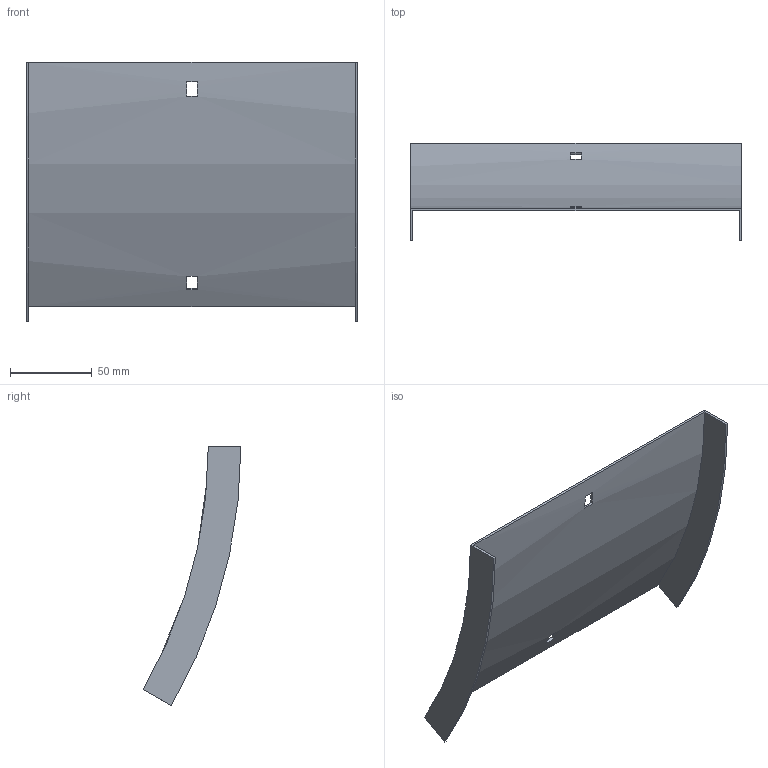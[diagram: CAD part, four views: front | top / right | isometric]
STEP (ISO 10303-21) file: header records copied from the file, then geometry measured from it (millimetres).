
FILE_DESCRIPTION (( 'STEP AP214' ), '1' );
FILE_NAME ('B2X32N3R200X.step', '2025-03-20T09:39:53', ( '' ), ( '' ), 'SwSTEP 2.0', 'SolidWorks 2023', '' );
FILE_SCHEMA (( 'AUTOMOTIVE_DESIGN' ));
Length unit declared in the file: millimetre
Products named in the file (1): B2X32N3R200X
Bounding box: 203 x 59.99 x 159.25 mm (x, y, z)
Volume: 56522.1 mm3; surface area: 76675.1 mm2
Topology: 1 solids, 1 shells, 18 faces, 48 edges, 32 vertices
Faces by surface type: plane 14, cylinder 4
Entity records: 599 total; most frequent: DIRECTION 102, CARTESIAN_POINT 99, ORIENTED_EDGE 96, EDGE_CURVE 48, AXIS2_PLACEMENT_3D 35, VECTOR 32, VERTEX_POINT 32, LINE 32
